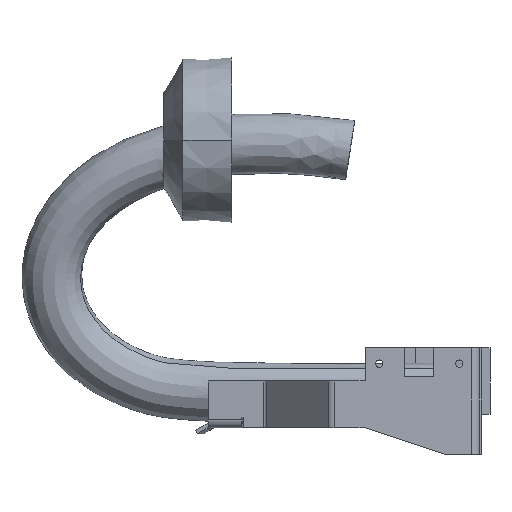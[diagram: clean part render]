
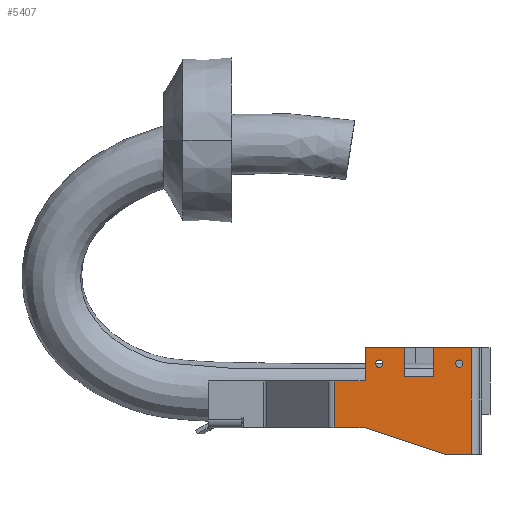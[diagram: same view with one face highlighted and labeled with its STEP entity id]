
A CAD part, front view. The second image highlights one B-rep face of the part: STEP entity #5407.
In plain terms, the highlighted planar face has unit normal (0, -1, 0).
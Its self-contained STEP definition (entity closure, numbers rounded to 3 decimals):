
#107 = ORIENTED_EDGE ( 'NONE', *, *, #2847, .T. ) ;
#112 = DIRECTION ( 'NONE',  ( 0., 0., 1. ) ) ;
#485 = DIRECTION ( 'NONE',  ( 0., 0., -1. ) ) ;
#512 = DIRECTION ( 'NONE',  ( 0., 0., 1. ) ) ;
#731 = VERTEX_POINT ( 'NONE', #14698 ) ;
#1166 = AXIS2_PLACEMENT_3D ( 'NONE', #9353, #14071, #112 ) ;
#1237 = EDGE_CURVE ( 'NONE', #13893, #11844, #6179, .T. ) ;
#1388 = CARTESIAN_POINT ( 'NONE',  ( 260., -104., 1919.5 ) ) ;
#1416 = VECTOR ( 'NONE', #485, 1000. ) ;
#1609 = CARTESIAN_POINT ( 'NONE',  ( 239., -104., 1949. ) ) ;
#1690 = FACE_BOUND ( 'NONE', #5239, .T. ) ;
#1744 = LINE ( 'NONE', #8522, #4071 ) ;
#1829 = DIRECTION ( 'NONE',  ( 0., 0., -1. ) ) ;
#1871 = EDGE_CURVE ( 'NONE', #6362, #3072, #11371, .T. ) ;
#1956 = EDGE_CURVE ( 'NONE', #12670, #11201, #12634, .T. ) ;
#2023 = VERTEX_POINT ( 'NONE', #5699 ) ;
#2190 = DIRECTION ( 'NONE',  ( 0., 0., 1. ) ) ;
#2285 = VECTOR ( 'NONE', #14684, 1000. ) ;
#2400 = VECTOR ( 'NONE', #10839, 1000. ) ;
#2682 = EDGE_CURVE ( 'NONE', #13214, #11539, #7541, .T. ) ;
#2794 = DIRECTION ( 'NONE',  ( 0.949, 0., -0.316 ) ) ;
#2830 = ORIENTED_EDGE ( 'NONE', *, *, #1871, .T. ) ;
#2847 = EDGE_CURVE ( 'NONE', #12062, #6362, #1744, .T. ) ;
#3002 = VECTOR ( 'NONE', #9359, 1000. ) ;
#3060 = CARTESIAN_POINT ( 'NONE',  ( 239., -104., 1829. ) ) ;
#3072 = VERTEX_POINT ( 'NONE', #3752 ) ;
#3368 = ORIENTED_EDGE ( 'NONE', *, *, #6074, .T. ) ;
#3494 = VECTOR ( 'NONE', #12147, 1000. ) ;
#3572 = ORIENTED_EDGE ( 'NONE', *, *, #12078, .T. ) ;
#3691 = ORIENTED_EDGE ( 'NONE', *, *, #10065, .T. ) ;
#3752 = CARTESIAN_POINT ( 'NONE',  ( 298., -104., 1949. ) ) ;
#4068 = CARTESIAN_POINT ( 'NONE',  ( 192.587, -104., 1789. ) ) ;
#4071 = VECTOR ( 'NONE', #9712, 1000. ) ;
#4159 = DIRECTION ( 'NONE',  ( 0., 0., 1. ) ) ;
#4201 = CARTESIAN_POINT ( 'NONE',  ( 260., -104., 1930.5 ) ) ;
#4270 = LINE ( 'NONE', #10222, #9662 ) ;
#4282 = VECTOR ( 'NONE', #512, 1000. ) ;
#4452 = LINE ( 'NONE', #9294, #2285 ) ;
#4649 = CARTESIAN_POINT ( 'NONE',  ( 298., -104., 1905. ) ) ;
#4809 = CARTESIAN_POINT ( 'NONE',  ( 298., -104., 1905. ) ) ;
#4816 = CARTESIAN_POINT ( 'NONE',  ( 55.712, -104., 1829. ) ) ;
#4857 = VERTEX_POINT ( 'NONE', #11166 ) ;
#5071 = CARTESIAN_POINT ( 'NONE',  ( 260., -104., 1925. ) ) ;
#5239 = EDGE_LOOP ( 'NONE', ( #11649, #11994 ) ) ;
#5325 = EDGE_CURVE ( 'NONE', #2023, #13893, #14300, .T. ) ;
#5407 = ADVANCED_FACE ( 'NONE', ( #1690, #10782, #13097 ), #6315, .T. ) ;
#5699 = CARTESIAN_POINT ( 'NONE',  ( 359., -104., 1789. ) ) ;
#5701 = VECTOR ( 'NONE', #11487, 1000. ) ;
#5963 = CARTESIAN_POINT ( 'NONE',  ( 398., -104., 1949. ) ) ;
#6074 = EDGE_CURVE ( 'NONE', #11201, #12670, #14752, .T. ) ;
#6161 = CARTESIAN_POINT ( 'NONE',  ( 380., -104., 1930.5 ) ) ;
#6179 = LINE ( 'NONE', #11920, #4282 ) ;
#6315 = PLANE ( 'NONE',  #9973 ) ;
#6342 = AXIS2_PLACEMENT_3D ( 'NONE', #9915, #14563, #9022 ) ;
#6362 = VERTEX_POINT ( 'NONE', #4809 ) ;
#6570 = CARTESIAN_POINT ( 'NONE',  ( 380., -104., 1919.5 ) ) ;
#6584 = LINE ( 'NONE', #13719, #5701 ) ;
#6608 = EDGE_CURVE ( 'NONE', #731, #4857, #14357, .T. ) ;
#6963 = EDGE_CURVE ( 'NONE', #11844, #14352, #6584, .T. ) ;
#7375 = ORIENTED_EDGE ( 'NONE', *, *, #14630, .T. ) ;
#7483 = CARTESIAN_POINT ( 'NONE',  ( 359., -104., 1789. ) ) ;
#7541 = LINE ( 'NONE', #13150, #2400 ) ;
#7543 = CARTESIAN_POINT ( 'NONE',  ( 192.587, -104., 1789. ) ) ;
#7901 = ORIENTED_EDGE ( 'NONE', *, *, #6608, .T. ) ;
#7983 = CIRCLE ( 'NONE', #6342, 5.5 ) ;
#7997 = DIRECTION ( 'NONE',  ( 0., 0., 1. ) ) ;
#8202 = CARTESIAN_POINT ( 'NONE',  ( 342., -104., 1949. ) ) ;
#8522 = CARTESIAN_POINT ( 'NONE',  ( 342., -104., 1905. ) ) ;
#9011 = ORIENTED_EDGE ( 'NONE', *, *, #1956, .T. ) ;
#9022 = DIRECTION ( 'NONE',  ( 0., 0., 1. ) ) ;
#9049 = CARTESIAN_POINT ( 'NONE',  ( 380., -104., 1925. ) ) ;
#9294 = CARTESIAN_POINT ( 'NONE',  ( 342., -104., 1949. ) ) ;
#9353 = CARTESIAN_POINT ( 'NONE',  ( 380., -104., 1925. ) ) ;
#9359 = DIRECTION ( 'NONE',  ( 1., 0., 0. ) ) ;
#9503 = CARTESIAN_POINT ( 'NONE',  ( 239., -104., 1829. ) ) ;
#9662 = VECTOR ( 'NONE', #11210, 1000. ) ;
#9707 = ORIENTED_EDGE ( 'NONE', *, *, #6963, .T. ) ;
#9712 = DIRECTION ( 'NONE',  ( -1., 0., 0. ) ) ;
#9915 = CARTESIAN_POINT ( 'NONE',  ( 260., -104., 1925. ) ) ;
#9973 = AXIS2_PLACEMENT_3D ( 'NONE', #4068, #13310, #1829 ) ;
#10065 = EDGE_CURVE ( 'NONE', #3072, #13214, #4270, .T. ) ;
#10222 = CARTESIAN_POINT ( 'NONE',  ( 298., -104., 1949. ) ) ;
#10391 = VECTOR ( 'NONE', #2794, 1000. ) ;
#10479 = LINE ( 'NONE', #4816, #3002 ) ;
#10720 = ORIENTED_EDGE ( 'NONE', *, *, #12612, .T. ) ;
#10782 = FACE_BOUND ( 'NONE', #14188, .T. ) ;
#10839 = DIRECTION ( 'NONE',  ( 0., 0., -1. ) ) ;
#10883 = CIRCLE ( 'NONE', #13742, 5.5 ) ;
#10954 = CARTESIAN_POINT ( 'NONE',  ( 239., -104., 1899. ) ) ;
#10958 = VERTEX_POINT ( 'NONE', #3060 ) ;
#10964 = EDGE_CURVE ( 'NONE', #12609, #13774, #7983, .T. ) ;
#11166 = CARTESIAN_POINT ( 'NONE',  ( 192.587, -104., 1829. ) ) ;
#11201 = VERTEX_POINT ( 'NONE', #6570 ) ;
#11210 = DIRECTION ( 'NONE',  ( -1., 0., 0. ) ) ;
#11275 = EDGE_LOOP ( 'NONE', ( #10720, #12098, #12443, #12100, #9707, #3572, #107, #2830, #3691, #12212, #7375, #7901 ) ) ;
#11371 = LINE ( 'NONE', #4649, #11445 ) ;
#11445 = VECTOR ( 'NONE', #2190, 1000. ) ;
#11487 = DIRECTION ( 'NONE',  ( -1., 0., 0. ) ) ;
#11539 = VERTEX_POINT ( 'NONE', #13498 ) ;
#11544 = CARTESIAN_POINT ( 'NONE',  ( 342., -104., 1905. ) ) ;
#11649 = ORIENTED_EDGE ( 'NONE', *, *, #14649, .T. ) ;
#11752 = LINE ( 'NONE', #9503, #10391 ) ;
#11844 = VERTEX_POINT ( 'NONE', #5963 ) ;
#11920 = CARTESIAN_POINT ( 'NONE',  ( 398., -104., 1789. ) ) ;
#11994 = ORIENTED_EDGE ( 'NONE', *, *, #10964, .T. ) ;
#12050 = DIRECTION ( 'NONE',  ( 1., 0., 0. ) ) ;
#12062 = VERTEX_POINT ( 'NONE', #11544 ) ;
#12078 = EDGE_CURVE ( 'NONE', #14352, #12062, #4452, .T. ) ;
#12098 = ORIENTED_EDGE ( 'NONE', *, *, #12990, .T. ) ;
#12100 = ORIENTED_EDGE ( 'NONE', *, *, #1237, .T. ) ;
#12147 = DIRECTION ( 'NONE',  ( -1., 0., 0. ) ) ;
#12212 = ORIENTED_EDGE ( 'NONE', *, *, #2682, .T. ) ;
#12403 = CARTESIAN_POINT ( 'NONE',  ( 398., -104., 1789. ) ) ;
#12443 = ORIENTED_EDGE ( 'NONE', *, *, #5325, .T. ) ;
#12609 = VERTEX_POINT ( 'NONE', #1388 ) ;
#12612 = EDGE_CURVE ( 'NONE', #4857, #10958, #10479, .T. ) ;
#12634 = CIRCLE ( 'NONE', #13341, 5.5 ) ;
#12670 = VERTEX_POINT ( 'NONE', #6161 ) ;
#12990 = EDGE_CURVE ( 'NONE', #10958, #2023, #11752, .T. ) ;
#13097 = FACE_OUTER_BOUND ( 'NONE', #11275, .T. ) ;
#13150 = CARTESIAN_POINT ( 'NONE',  ( 239., -104., 1949. ) ) ;
#13214 = VERTEX_POINT ( 'NONE', #1609 ) ;
#13310 = DIRECTION ( 'NONE',  ( 0., -1., 0. ) ) ;
#13341 = AXIS2_PLACEMENT_3D ( 'NONE', #9049, #13679, #7997 ) ;
#13498 = CARTESIAN_POINT ( 'NONE',  ( 239., -104., 1899. ) ) ;
#13560 = VECTOR ( 'NONE', #12050, 1000. ) ;
#13679 = DIRECTION ( 'NONE',  ( 0., 1., 0. ) ) ;
#13719 = CARTESIAN_POINT ( 'NONE',  ( 410., -104., 1949. ) ) ;
#13742 = AXIS2_PLACEMENT_3D ( 'NONE', #5071, #14183, #4159 ) ;
#13774 = VERTEX_POINT ( 'NONE', #4201 ) ;
#13893 = VERTEX_POINT ( 'NONE', #12403 ) ;
#14071 = DIRECTION ( 'NONE',  ( 0., 1., 0. ) ) ;
#14183 = DIRECTION ( 'NONE',  ( 0., 1., 0. ) ) ;
#14188 = EDGE_LOOP ( 'NONE', ( #9011, #3368 ) ) ;
#14300 = LINE ( 'NONE', #7483, #13560 ) ;
#14352 = VERTEX_POINT ( 'NONE', #8202 ) ;
#14357 = LINE ( 'NONE', #7543, #1416 ) ;
#14397 = LINE ( 'NONE', #10954, #3494 ) ;
#14563 = DIRECTION ( 'NONE',  ( 0., 1., 0. ) ) ;
#14630 = EDGE_CURVE ( 'NONE', #11539, #731, #14397, .T. ) ;
#14649 = EDGE_CURVE ( 'NONE', #13774, #12609, #10883, .T. ) ;
#14684 = DIRECTION ( 'NONE',  ( 0., 0., -1. ) ) ;
#14698 = CARTESIAN_POINT ( 'NONE',  ( 192.587, -104., 1899. ) ) ;
#14752 = CIRCLE ( 'NONE', #1166, 5.5 ) ;
